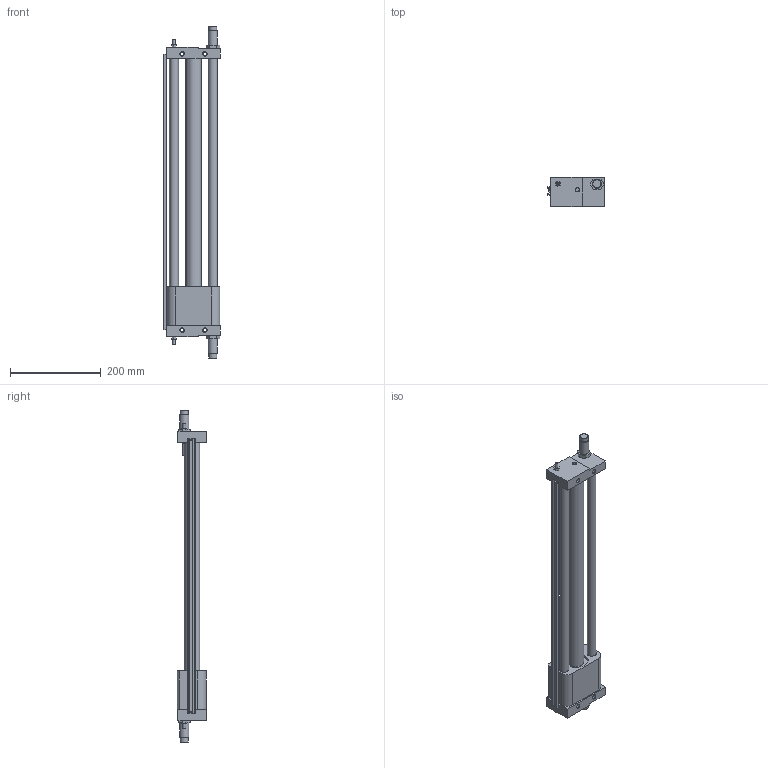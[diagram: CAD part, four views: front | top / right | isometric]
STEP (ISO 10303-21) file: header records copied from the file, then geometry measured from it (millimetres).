
FILE_DESCRIPTION( ( 'STEP AP214' ), '1' );
FILE_NAME( 'C:/Users/EMC02301/Desktop/222/ESWT32X500-S-B.stp', '2026-07-29T07:25:48', ( 'License CC BY-ND 4.0' ), ( 'CADENAS' ), ' ', 'PARTsolutions', ' ' );
FILE_SCHEMA( ( 'AUTOMOTIVE_DESIGN { 1 0 10303 214 1 1 1 1 }' ) );
Length unit declared in the file: millimetre
Products named in the file (4): ESWT32X500-S-B()(0); _ESWT32X500-S-B(0)()_dummy; _ESWT32X500-S-B(0)()_ROD; _ESWT32X500(0)()_BODY
Assembly tree (3 placements, depth 2):
  ESWT32X500-S-B()(0)
    _ESWT32X500-S-B(0)()_dummy
    _ESWT32X500-S-B(0)()_ROD
    _ESWT32X500(0)()_BODY
Bounding box: 125.5 x 66 x 733 mm (x, y, z)
Volume: 1794423.4 mm3; surface area: 302465.4 mm2
Topology: 2 solids, 5 shells, 199 faces, 431 edges, 281 vertices
Faces by surface type: plane 114, cylinder 49, cone 34, torus 2
Full cylindrical faces by diameter (mm): 3.5 x2, 4.134 x4, 5.8 x2, 6 x6, 6.647 x4, 8.376 x4, 8.5 x4, 8.566 x2, 9.6 x2, 14 x4, 17.8 x2, 20 x6, 35 x2, 55 x2
Entity records: 6555 total; most frequent: DIRECTION 875, CARTESIAN_POINT 801, ORIENTED_EDGE 666, EDGE_LOOP 341, AXIS2_PLACEMENT_3D 339, EDGE_CURVE 333, VERTEX_POINT 264, FACE_OUTER_BOUND 247
